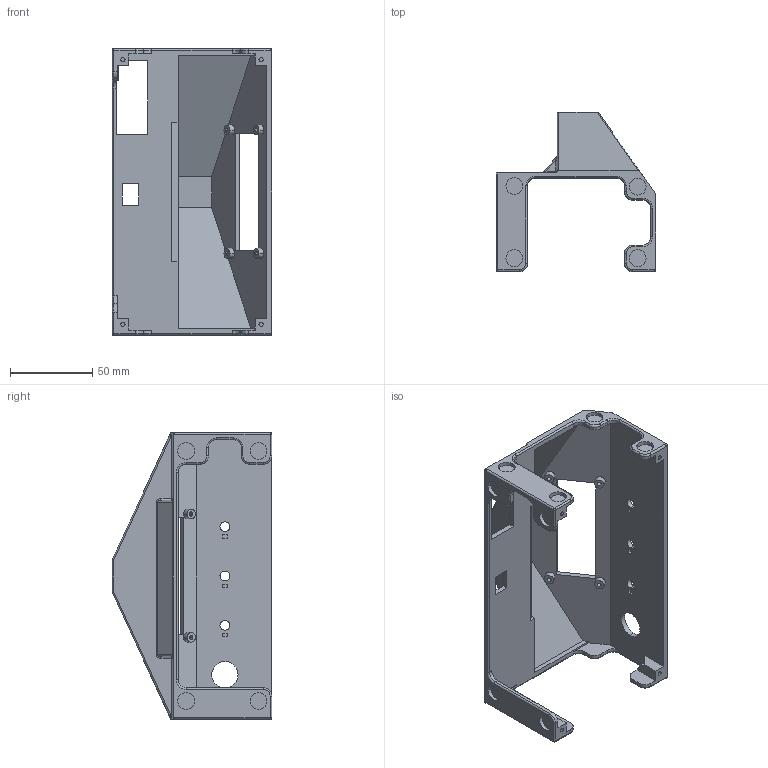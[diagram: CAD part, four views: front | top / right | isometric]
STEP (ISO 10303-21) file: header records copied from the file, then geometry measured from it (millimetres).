
FILE_DESCRIPTION (( 'STEP AP214' ), '1' );
FILE_NAME ('Wand_Gehäuse.STEP', '2025-12-22T09:50:45', ( '' ), ( '' ), 'SwSTEP 2.0', 'SolidWorks 2025', '' );
FILE_SCHEMA (( 'AUTOMOTIVE_DESIGN' ));
Length unit declared in the file: millimetre
Products named in the file (1): Wand_Gehäuse
Bounding box: 97 x 97 x 174 mm (x, y, z)
Volume: 105767.5 mm3; surface area: 72315.4 mm2
Topology: 1 solids, 1 shells, 293 faces, 711 edges, 440 vertices
Faces by surface type: cylinder 128, plane 127, torus 24, sphere 8, bspline 6
Entity records: 8666 total; most frequent: CARTESIAN_POINT 1637, DIRECTION 1537, ORIENTED_EDGE 1410, EDGE_CURVE 705, AXIS2_PLACEMENT_3D 562, VERTEX_POINT 440, VECTOR 413, LINE 413
